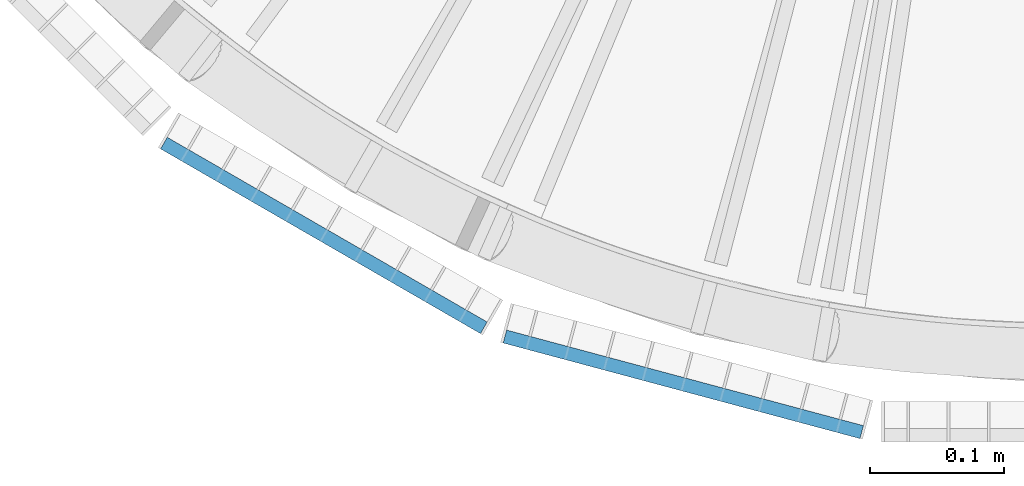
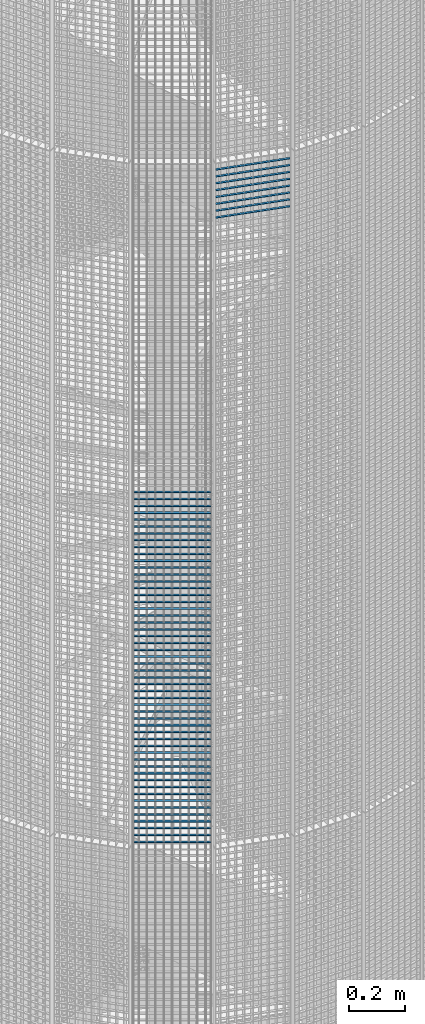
# One storey, part 346 of 1148: 60 beams, 2 elements without a shape of their own.
"""IFC2X3 building model written with IfcOpenShell, lengths in millimetres."""

from ifc_helpers import new_model, si_unit, frame, origin_with_axes, origin_2d_with_axis, place, context, subcontext, project, spatial, rectangle, extrude, material, type_object, element, aggregate, save


model = new_model("IFC2X3")

# Units and contexts
model_context = context("Model", 3, precision=1e-05, world=origin_with_axes())
body_context = subcontext(model_context, "Body", "Model", "MODEL_VIEW")
ifc_project = project(units=[si_unit("LENGTHUNIT", "METRE", prefix="MILLI"), si_unit("AREAUNIT", "SQUARE_METRE"), si_unit("VOLUMEUNIT", "CUBIC_METRE"), si_unit("MASSUNIT", "GRAM", prefix="KILO"), si_unit("TIMEUNIT", "SECOND"), si_unit("PLANEANGLEUNIT", "RADIAN"), si_unit("SOLIDANGLEUNIT", "STERADIAN"), si_unit("THERMODYNAMICTEMPERATUREUNIT", "DEGREE_CELSIUS"), si_unit("LUMINOUSINTENSITYUNIT", "LUMEN")], contexts=[model_context])

# Site, building, storey
site_placement = place(None, origin_with_axes())
site = spatial("IfcSite", under=ifc_project, at=site_placement, Name="Undefined", CompositionType="ELEMENT")
building_placement = place(site_placement, origin_with_axes())
building = spatial("IfcBuilding", under=site, at=building_placement, Name="Undefined", CompositionType="ELEMENT")
storey_placement = place(building_placement, origin_with_axes())
storey = spatial("IfcBuildingStorey", under=building, at=storey_placement, Name="Undefined", CompositionType="ELEMENT", Elevation=0.0)

# Assembly, beams
assembly_1_placement = place(storey_placement, origin_with_axes())
assembly_1 = element("IfcElementAssembly", 1, at=assembly_1_placement, inside=storey, Name="BORDURE", AssemblyPlace="NOTDEFINED", PredefinedType="NOTDEFINED")
ifc_material = material(Name="STEEL/S235JR")
beam_type = type_object("IfcBeamType", Name="PL2*10", PredefinedType="NOTDEFINED")
beam_1_placement = place(assembly_1_placement, frame((21162.7680445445, -1033.29996828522, 10560.0), z_axis=(-0.49999999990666, -0.866025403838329, 0.0), x_axis=(-0.866025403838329, 0.499999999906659, 0.0)))
beam_1 = element("IfcBeam", 2, at=beam_1_placement, type_object=beam_type, material=ifc_material, Name="ENTRETOISE", context=body_context, shape_type="SweptSolid", body=[
    extrude(rectangle(XDim=2.0, YDim=10.0, at=origin_2d_with_axis()), frame((275.999999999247, 9.09494701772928e-13, 1.53210777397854e-14), z_axis=(-1.0, 0.0, 0.0), x_axis=(0.0, -1.0, 0.0)), (0.0, 0.0, 1.0), 276.0),
])
beam_2_placement = place(assembly_1_placement, frame((21162.7680445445, -1033.29996828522, 10530.0), z_axis=(-0.49999999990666, -0.866025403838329, 0.0), x_axis=(-0.866025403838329, 0.499999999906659, 0.0)))
beam_2 = element("IfcBeam", 3, at=beam_2_placement, type_object=beam_type, material=ifc_material, Name="ENTRETOISE", context=body_context, shape_type="SweptSolid", body=[
    extrude(rectangle(XDim=2.0, YDim=10.0, at=origin_2d_with_axis()), frame((275.999999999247, 9.09494701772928e-13, 1.53210777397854e-14), z_axis=(-1.0, 0.0, 0.0), x_axis=(0.0, -1.0, 0.0)), (0.0, 0.0, 1.0), 276.0),
])
beam_3_placement = place(assembly_1_placement, frame((21162.7680445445, -1033.29996828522, 10500.0), z_axis=(-0.49999999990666, -0.866025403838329, 0.0), x_axis=(-0.866025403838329, 0.499999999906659, 0.0)))
beam_3 = element("IfcBeam", 4, at=beam_3_placement, type_object=beam_type, material=ifc_material, Name="ENTRETOISE", context=body_context, shape_type="SweptSolid", body=[
    extrude(rectangle(XDim=2.0, YDim=10.0, at=origin_2d_with_axis()), frame((275.999999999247, 9.09494701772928e-13, 1.53210777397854e-14), z_axis=(-1.0, 0.0, 0.0), x_axis=(0.0, -1.0, 0.0)), (0.0, 0.0, 1.0), 276.0),
])
beam_4_placement = place(assembly_1_placement, frame((21162.7680445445, -1033.29996828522, 10470.0), z_axis=(-0.49999999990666, -0.866025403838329, 0.0), x_axis=(-0.866025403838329, 0.499999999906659, 0.0)))
beam_4 = element("IfcBeam", 5, at=beam_4_placement, type_object=beam_type, material=ifc_material, Name="ENTRETOISE", context=body_context, shape_type="SweptSolid", body=[
    extrude(rectangle(XDim=2.0, YDim=10.0, at=origin_2d_with_axis()), frame((275.999999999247, 9.09494701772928e-13, 1.53210777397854e-14), z_axis=(-1.0, 0.0, 0.0), x_axis=(0.0, -1.0, 0.0)), (0.0, 0.0, 1.0), 276.0),
])
beam_5_placement = place(assembly_1_placement, frame((21162.7680445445, -1033.29996828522, 10440.0), z_axis=(-0.49999999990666, -0.866025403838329, 0.0), x_axis=(-0.866025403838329, 0.499999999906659, 0.0)))
beam_5 = element("IfcBeam", 6, at=beam_5_placement, type_object=beam_type, material=ifc_material, Name="ENTRETOISE", context=body_context, shape_type="SweptSolid", body=[
    extrude(rectangle(XDim=2.0, YDim=10.0, at=origin_2d_with_axis()), frame((275.999999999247, 9.09494701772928e-13, 1.53210777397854e-14), z_axis=(-1.0, 0.0, 0.0), x_axis=(0.0, -1.0, 0.0)), (0.0, 0.0, 1.0), 276.0),
])
beam_6_placement = place(assembly_1_placement, frame((21162.7680445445, -1033.29996828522, 10410.0), z_axis=(-0.49999999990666, -0.866025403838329, 0.0), x_axis=(-0.866025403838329, 0.499999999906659, 0.0)))
beam_6 = element("IfcBeam", 7, at=beam_6_placement, type_object=beam_type, material=ifc_material, Name="ENTRETOISE", context=body_context, shape_type="SweptSolid", body=[
    extrude(rectangle(XDim=2.0, YDim=10.0, at=origin_2d_with_axis()), frame((275.999999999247, 9.09494701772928e-13, 1.53210777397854e-14), z_axis=(-1.0, 0.0, 0.0), x_axis=(0.0, -1.0, 0.0)), (0.0, 0.0, 1.0), 276.0),
])
beam_7_placement = place(assembly_1_placement, frame((21162.7680445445, -1033.29996828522, 10380.0), z_axis=(-0.49999999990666, -0.866025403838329, 0.0), x_axis=(-0.866025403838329, 0.499999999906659, 0.0)))
beam_7 = element("IfcBeam", 8, at=beam_7_placement, type_object=beam_type, material=ifc_material, Name="ENTRETOISE", context=body_context, shape_type="SweptSolid", body=[
    extrude(rectangle(XDim=2.0, YDim=10.0, at=origin_2d_with_axis()), frame((275.999999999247, 9.09494701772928e-13, 1.53210777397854e-14), z_axis=(-1.0, 0.0, 0.0), x_axis=(0.0, -1.0, 0.0)), (0.0, 0.0, 1.0), 276.0),
])
beam_8_placement = place(assembly_1_placement, frame((21162.7680445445, -1033.29996828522, 10350.0), z_axis=(-0.49999999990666, -0.866025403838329, 0.0), x_axis=(-0.866025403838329, 0.499999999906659, 0.0)))
beam_8 = element("IfcBeam", 9, at=beam_8_placement, type_object=beam_type, material=ifc_material, Name="ENTRETOISE", context=body_context, shape_type="SweptSolid", body=[
    extrude(rectangle(XDim=2.0, YDim=10.0, at=origin_2d_with_axis()), frame((275.999999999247, 9.09494701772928e-13, 1.53210777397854e-14), z_axis=(-1.0, 0.0, 0.0), x_axis=(0.0, -1.0, 0.0)), (0.0, 0.0, 1.0), 276.0),
])
beam_9_placement = place(assembly_1_placement, frame((21162.7680445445, -1033.29996828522, 10320.0), z_axis=(-0.49999999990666, -0.866025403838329, 0.0), x_axis=(-0.866025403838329, 0.499999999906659, 0.0)))
beam_9 = element("IfcBeam", 10, at=beam_9_placement, type_object=beam_type, material=ifc_material, Name="ENTRETOISE", context=body_context, shape_type="SweptSolid", body=[
    extrude(rectangle(XDim=2.0, YDim=10.0, at=origin_2d_with_axis()), frame((275.999999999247, 9.09494701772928e-13, 1.53210777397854e-14), z_axis=(-1.0, 0.0, 0.0), x_axis=(0.0, -1.0, 0.0)), (0.0, 0.0, 1.0), 276.0),
])
beam_10_placement = place(assembly_1_placement, frame((21162.7680445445, -1033.29996828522, 10290.0), z_axis=(-0.49999999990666, -0.866025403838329, 0.0), x_axis=(-0.866025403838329, 0.499999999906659, 0.0)))
beam_10 = element("IfcBeam", 11, at=beam_10_placement, type_object=beam_type, material=ifc_material, Name="ENTRETOISE", context=body_context, shape_type="SweptSolid", body=[
    extrude(rectangle(XDim=2.0, YDim=10.0, at=origin_2d_with_axis()), frame((275.999999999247, 9.09494701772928e-13, 1.53210777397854e-14), z_axis=(-1.0, 0.0, 0.0), x_axis=(0.0, -1.0, 0.0)), (0.0, 0.0, 1.0), 276.0),
])
beam_11_placement = place(assembly_1_placement, frame((21162.7680445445, -1033.29996828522, 10260.0), z_axis=(-0.49999999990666, -0.866025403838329, 0.0), x_axis=(-0.866025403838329, 0.499999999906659, 0.0)))
beam_11 = element("IfcBeam", 12, at=beam_11_placement, type_object=beam_type, material=ifc_material, Name="ENTRETOISE", context=body_context, shape_type="SweptSolid", body=[
    extrude(rectangle(XDim=2.0, YDim=10.0, at=origin_2d_with_axis()), frame((275.999999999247, 9.09494701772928e-13, 1.53210777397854e-14), z_axis=(-1.0, 0.0, 0.0), x_axis=(0.0, -1.0, 0.0)), (0.0, 0.0, 1.0), 276.0),
])
beam_12_placement = place(assembly_1_placement, frame((21162.7680445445, -1033.29996828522, 10230.0), z_axis=(-0.49999999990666, -0.866025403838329, 0.0), x_axis=(-0.866025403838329, 0.499999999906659, 0.0)))
beam_12 = element("IfcBeam", 13, at=beam_12_placement, type_object=beam_type, material=ifc_material, Name="ENTRETOISE", context=body_context, shape_type="SweptSolid", body=[
    extrude(rectangle(XDim=2.0, YDim=10.0, at=origin_2d_with_axis()), frame((275.999999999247, 9.09494701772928e-13, 1.53210777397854e-14), z_axis=(-1.0, 0.0, 0.0), x_axis=(0.0, -1.0, 0.0)), (0.0, 0.0, 1.0), 276.0),
])
beam_13_placement = place(assembly_1_placement, frame((21162.7680445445, -1033.29996828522, 10200.0), z_axis=(-0.49999999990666, -0.866025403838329, 0.0), x_axis=(-0.866025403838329, 0.499999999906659, 0.0)))
beam_13 = element("IfcBeam", 14, at=beam_13_placement, type_object=beam_type, material=ifc_material, Name="ENTRETOISE", context=body_context, shape_type="SweptSolid", body=[
    extrude(rectangle(XDim=2.0, YDim=10.0, at=origin_2d_with_axis()), frame((275.999999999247, 9.09494701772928e-13, 1.53210777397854e-14), z_axis=(-1.0, 0.0, 0.0), x_axis=(0.0, -1.0, 0.0)), (0.0, 0.0, 1.0), 276.0),
])
beam_14_placement = place(assembly_1_placement, frame((21162.7680445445, -1033.29996828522, 10170.0), z_axis=(-0.49999999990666, -0.866025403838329, 0.0), x_axis=(-0.866025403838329, 0.499999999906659, 0.0)))
beam_14 = element("IfcBeam", 15, at=beam_14_placement, type_object=beam_type, material=ifc_material, Name="ENTRETOISE", context=body_context, shape_type="SweptSolid", body=[
    extrude(rectangle(XDim=2.0, YDim=10.0, at=origin_2d_with_axis()), frame((275.999999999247, 9.09494701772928e-13, 1.53210777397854e-14), z_axis=(-1.0, 0.0, 0.0), x_axis=(0.0, -1.0, 0.0)), (0.0, 0.0, 1.0), 276.0),
])
beam_15_placement = place(assembly_1_placement, frame((21162.7680445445, -1033.29996828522, 10140.0), z_axis=(-0.49999999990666, -0.866025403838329, 0.0), x_axis=(-0.866025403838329, 0.499999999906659, 0.0)))
beam_15 = element("IfcBeam", 16, at=beam_15_placement, type_object=beam_type, material=ifc_material, Name="ENTRETOISE", context=body_context, shape_type="SweptSolid", body=[
    extrude(rectangle(XDim=2.0, YDim=10.0, at=origin_2d_with_axis()), frame((275.999999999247, 9.09494701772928e-13, 1.53210777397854e-14), z_axis=(-1.0, 0.0, 0.0), x_axis=(0.0, -1.0, 0.0)), (0.0, 0.0, 1.0), 276.0),
])
beam_16_placement = place(assembly_1_placement, frame((21162.7680445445, -1033.29996828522, 9720.0), z_axis=(-0.49999999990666, -0.866025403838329, 0.0), x_axis=(-0.866025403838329, 0.499999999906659, 0.0)))
beam_16 = element("IfcBeam", 17, at=beam_16_placement, type_object=beam_type, material=ifc_material, Name="ENTRETOISE", context=body_context, shape_type="SweptSolid", body=[
    extrude(rectangle(XDim=2.0, YDim=10.0, at=origin_2d_with_axis()), frame((275.999999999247, 9.09494701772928e-13, 1.53210777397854e-14), z_axis=(-1.0, 0.0, 0.0), x_axis=(0.0, -1.0, 0.0)), (0.0, 0.0, 1.0), 276.0),
])
beam_17_placement = place(assembly_1_placement, frame((21162.7680445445, -1033.29996828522, 9690.0), z_axis=(-0.49999999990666, -0.866025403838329, 0.0), x_axis=(-0.866025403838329, 0.499999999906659, 0.0)))
beam_17 = element("IfcBeam", 18, at=beam_17_placement, type_object=beam_type, material=ifc_material, Name="ENTRETOISE", context=body_context, shape_type="SweptSolid", body=[
    extrude(rectangle(XDim=2.0, YDim=10.0, at=origin_2d_with_axis()), frame((275.999999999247, 9.09494701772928e-13, 1.53210777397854e-14), z_axis=(-1.0, 0.0, 0.0), x_axis=(0.0, -1.0, 0.0)), (0.0, 0.0, 1.0), 276.0),
])
beam_18_placement = place(assembly_1_placement, frame((21162.7680445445, -1033.29996828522, 9750.0), z_axis=(-0.49999999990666, -0.866025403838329, 0.0), x_axis=(-0.866025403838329, 0.499999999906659, 0.0)))
beam_18 = element("IfcBeam", 19, at=beam_18_placement, type_object=beam_type, material=ifc_material, Name="ENTRETOISE", context=body_context, shape_type="SweptSolid", body=[
    extrude(rectangle(XDim=2.0, YDim=10.0, at=origin_2d_with_axis()), frame((275.999999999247, 9.09494701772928e-13, 1.53210777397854e-14), z_axis=(-1.0, 0.0, 0.0), x_axis=(0.0, -1.0, 0.0)), (0.0, 0.0, 1.0), 276.0),
])
beam_19_placement = place(assembly_1_placement, frame((21162.7680445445, -1033.29996828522, 9660.0), z_axis=(-0.49999999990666, -0.866025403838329, 0.0), x_axis=(-0.866025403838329, 0.499999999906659, 0.0)))
beam_19 = element("IfcBeam", 20, at=beam_19_placement, type_object=beam_type, material=ifc_material, Name="ENTRETOISE", context=body_context, shape_type="SweptSolid", body=[
    extrude(rectangle(XDim=2.0, YDim=10.0, at=origin_2d_with_axis()), frame((275.999999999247, 9.09494701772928e-13, 1.53210777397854e-14), z_axis=(-1.0, 0.0, 0.0), x_axis=(0.0, -1.0, 0.0)), (0.0, 0.0, 1.0), 276.0),
])
beam_20_placement = place(assembly_1_placement, frame((21162.7680445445, -1033.29996828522, 9630.0), z_axis=(-0.49999999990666, -0.866025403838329, 0.0), x_axis=(-0.866025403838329, 0.499999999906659, 0.0)))
beam_20 = element("IfcBeam", 21, at=beam_20_placement, type_object=beam_type, material=ifc_material, Name="ENTRETOISE", context=body_context, shape_type="SweptSolid", body=[
    extrude(rectangle(XDim=2.0, YDim=10.0, at=origin_2d_with_axis()), frame((275.999999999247, 9.09494701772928e-13, 1.53210777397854e-14), z_axis=(-1.0, 0.0, 0.0), x_axis=(0.0, -1.0, 0.0)), (0.0, 0.0, 1.0), 276.0),
])
beam_21_placement = place(assembly_1_placement, frame((21162.7680445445, -1033.29996828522, 9780.0), z_axis=(-0.49999999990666, -0.866025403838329, 0.0), x_axis=(-0.866025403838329, 0.499999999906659, 0.0)))
beam_21 = element("IfcBeam", 22, at=beam_21_placement, type_object=beam_type, material=ifc_material, Name="ENTRETOISE", context=body_context, shape_type="SweptSolid", body=[
    extrude(rectangle(XDim=2.0, YDim=10.0, at=origin_2d_with_axis()), frame((275.999999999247, 9.09494701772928e-13, 1.53210777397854e-14), z_axis=(-1.0, 0.0, 0.0), x_axis=(0.0, -1.0, 0.0)), (0.0, 0.0, 1.0), 276.0),
])
beam_22_placement = place(assembly_1_placement, frame((21162.7680445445, -1033.29996828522, 9600.0), z_axis=(-0.49999999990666, -0.866025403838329, 0.0), x_axis=(-0.866025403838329, 0.499999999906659, 0.0)))
beam_22 = element("IfcBeam", 23, at=beam_22_placement, type_object=beam_type, material=ifc_material, Name="ENTRETOISE", context=body_context, shape_type="SweptSolid", body=[
    extrude(rectangle(XDim=2.0, YDim=10.0, at=origin_2d_with_axis()), frame((275.999999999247, 9.09494701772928e-13, 1.53210777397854e-14), z_axis=(-1.0, 0.0, 0.0), x_axis=(0.0, -1.0, 0.0)), (0.0, 0.0, 1.0), 276.0),
])
beam_23_placement = place(assembly_1_placement, frame((21162.7680445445, -1033.29996828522, 9810.0), z_axis=(-0.49999999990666, -0.866025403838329, 0.0), x_axis=(-0.866025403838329, 0.499999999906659, 0.0)))
beam_23 = element("IfcBeam", 24, at=beam_23_placement, type_object=beam_type, material=ifc_material, Name="ENTRETOISE", context=body_context, shape_type="SweptSolid", body=[
    extrude(rectangle(XDim=2.0, YDim=10.0, at=origin_2d_with_axis()), frame((275.999999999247, 9.09494701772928e-13, 1.53210777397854e-14), z_axis=(-1.0, 0.0, 0.0), x_axis=(0.0, -1.0, 0.0)), (0.0, 0.0, 1.0), 276.0),
])
beam_24_placement = place(assembly_1_placement, frame((21162.7680445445, -1033.29996828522, 9570.0), z_axis=(-0.49999999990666, -0.866025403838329, 0.0), x_axis=(-0.866025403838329, 0.499999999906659, 0.0)))
beam_24 = element("IfcBeam", 25, at=beam_24_placement, type_object=beam_type, material=ifc_material, Name="ENTRETOISE", context=body_context, shape_type="SweptSolid", body=[
    extrude(rectangle(XDim=2.0, YDim=10.0, at=origin_2d_with_axis()), frame((275.999999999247, 9.09494701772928e-13, 1.53210777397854e-14), z_axis=(-1.0, 0.0, 0.0), x_axis=(0.0, -1.0, 0.0)), (0.0, 0.0, 1.0), 276.0),
])
beam_25_placement = place(assembly_1_placement, frame((21162.7680445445, -1033.29996828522, 9540.0), z_axis=(-0.49999999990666, -0.866025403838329, 0.0), x_axis=(-0.866025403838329, 0.499999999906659, 0.0)))
beam_25 = element("IfcBeam", 26, at=beam_25_placement, type_object=beam_type, material=ifc_material, Name="ENTRETOISE", context=body_context, shape_type="SweptSolid", body=[
    extrude(rectangle(XDim=2.0, YDim=10.0, at=origin_2d_with_axis()), frame((275.999999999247, 9.09494701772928e-13, 1.53210777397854e-14), z_axis=(-1.0, 0.0, 0.0), x_axis=(0.0, -1.0, 0.0)), (0.0, 0.0, 1.0), 276.0),
])
beam_26_placement = place(assembly_1_placement, frame((21162.7680445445, -1033.29996828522, 9840.0), z_axis=(-0.49999999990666, -0.866025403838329, 0.0), x_axis=(-0.866025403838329, 0.499999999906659, 0.0)))
beam_26 = element("IfcBeam", 27, at=beam_26_placement, type_object=beam_type, material=ifc_material, Name="ENTRETOISE", context=body_context, shape_type="SweptSolid", body=[
    extrude(rectangle(XDim=2.0, YDim=10.0, at=origin_2d_with_axis()), frame((275.999999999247, 9.09494701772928e-13, 1.53210777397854e-14), z_axis=(-1.0, 0.0, 0.0), x_axis=(0.0, -1.0, 0.0)), (0.0, 0.0, 1.0), 276.0),
])
beam_27_placement = place(assembly_1_placement, frame((21162.7680445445, -1033.29996828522, 9510.0), z_axis=(-0.49999999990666, -0.866025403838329, 0.0), x_axis=(-0.866025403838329, 0.499999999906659, 0.0)))
beam_27 = element("IfcBeam", 28, at=beam_27_placement, type_object=beam_type, material=ifc_material, Name="ENTRETOISE", context=body_context, shape_type="SweptSolid", body=[
    extrude(rectangle(XDim=2.0, YDim=10.0, at=origin_2d_with_axis()), frame((275.999999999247, 9.09494701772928e-13, 1.53210777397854e-14), z_axis=(-1.0, 0.0, 0.0), x_axis=(0.0, -1.0, 0.0)), (0.0, 0.0, 1.0), 276.0),
])
beam_28_placement = place(assembly_1_placement, frame((21162.7680445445, -1033.29996828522, 9480.0), z_axis=(-0.49999999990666, -0.866025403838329, 0.0), x_axis=(-0.866025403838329, 0.499999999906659, 0.0)))
beam_28 = element("IfcBeam", 29, at=beam_28_placement, type_object=beam_type, material=ifc_material, Name="ENTRETOISE", context=body_context, shape_type="SweptSolid", body=[
    extrude(rectangle(XDim=2.0, YDim=10.0, at=origin_2d_with_axis()), frame((275.999999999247, 9.09494701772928e-13, 1.53210777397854e-14), z_axis=(-1.0, 0.0, 0.0), x_axis=(0.0, -1.0, 0.0)), (0.0, 0.0, 1.0), 276.0),
])
beam_29_placement = place(assembly_1_placement, frame((21162.7680445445, -1033.29996828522, 9870.0), z_axis=(-0.49999999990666, -0.866025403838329, 0.0), x_axis=(-0.866025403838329, 0.499999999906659, 0.0)))
beam_29 = element("IfcBeam", 30, at=beam_29_placement, type_object=beam_type, material=ifc_material, Name="ENTRETOISE", context=body_context, shape_type="SweptSolid", body=[
    extrude(rectangle(XDim=2.0, YDim=10.0, at=origin_2d_with_axis()), frame((275.999999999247, 9.09494701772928e-13, 1.53210777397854e-14), z_axis=(-1.0, 0.0, 0.0), x_axis=(0.0, -1.0, 0.0)), (0.0, 0.0, 1.0), 276.0),
])
beam_30_placement = place(assembly_1_placement, frame((21162.7680445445, -1033.29996828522, 9450.0), z_axis=(-0.49999999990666, -0.866025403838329, 0.0), x_axis=(-0.866025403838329, 0.499999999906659, 0.0)))
beam_30 = element("IfcBeam", 31, at=beam_30_placement, type_object=beam_type, material=ifc_material, Name="ENTRETOISE", context=body_context, shape_type="SweptSolid", body=[
    extrude(rectangle(XDim=2.0, YDim=10.0, at=origin_2d_with_axis()), frame((275.999999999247, 9.09494701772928e-13, 1.53210777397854e-14), z_axis=(-1.0, 0.0, 0.0), x_axis=(0.0, -1.0, 0.0)), (0.0, 0.0, 1.0), 276.0),
])
beam_31_placement = place(assembly_1_placement, frame((21162.7680445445, -1033.29996828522, 9420.0), z_axis=(-0.49999999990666, -0.866025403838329, 0.0), x_axis=(-0.866025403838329, 0.499999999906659, 0.0)))
beam_31 = element("IfcBeam", 32, at=beam_31_placement, type_object=beam_type, material=ifc_material, Name="ENTRETOISE", context=body_context, shape_type="SweptSolid", body=[
    extrude(rectangle(XDim=2.0, YDim=10.0, at=origin_2d_with_axis()), frame((275.999999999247, 9.09494701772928e-13, 1.53210777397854e-14), z_axis=(-1.0, 0.0, 0.0), x_axis=(0.0, -1.0, 0.0)), (0.0, 0.0, 1.0), 276.0),
])
beam_32_placement = place(assembly_1_placement, frame((21162.7680445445, -1033.29996828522, 9900.0), z_axis=(-0.49999999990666, -0.866025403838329, 0.0), x_axis=(-0.866025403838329, 0.499999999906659, 0.0)))
beam_32 = element("IfcBeam", 33, at=beam_32_placement, type_object=beam_type, material=ifc_material, Name="ENTRETOISE", context=body_context, shape_type="SweptSolid", body=[
    extrude(rectangle(XDim=2.0, YDim=10.0, at=origin_2d_with_axis()), frame((275.999999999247, 9.09494701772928e-13, 1.53210777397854e-14), z_axis=(-1.0, 0.0, 0.0), x_axis=(0.0, -1.0, 0.0)), (0.0, 0.0, 1.0), 276.0),
])
beam_33_placement = place(assembly_1_placement, frame((21162.7680445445, -1033.29996828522, 9390.0), z_axis=(-0.49999999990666, -0.866025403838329, 0.0), x_axis=(-0.866025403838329, 0.499999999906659, 0.0)))
beam_33 = element("IfcBeam", 34, at=beam_33_placement, type_object=beam_type, material=ifc_material, Name="ENTRETOISE", context=body_context, shape_type="SweptSolid", body=[
    extrude(rectangle(XDim=2.0, YDim=10.0, at=origin_2d_with_axis()), frame((275.999999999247, 9.09494701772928e-13, 1.53210777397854e-14), z_axis=(-1.0, 0.0, 0.0), x_axis=(0.0, -1.0, 0.0)), (0.0, 0.0, 1.0), 276.0),
])
beam_34_placement = place(assembly_1_placement, frame((21162.7680445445, -1033.29996828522, 9930.0), z_axis=(-0.49999999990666, -0.866025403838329, 0.0), x_axis=(-0.866025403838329, 0.499999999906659, 0.0)))
beam_34 = element("IfcBeam", 35, at=beam_34_placement, type_object=beam_type, material=ifc_material, Name="ENTRETOISE", context=body_context, shape_type="SweptSolid", body=[
    extrude(rectangle(XDim=2.0, YDim=10.0, at=origin_2d_with_axis()), frame((275.999999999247, 9.09494701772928e-13, 1.53210777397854e-14), z_axis=(-1.0, 0.0, 0.0), x_axis=(0.0, -1.0, 0.0)), (0.0, 0.0, 1.0), 276.0),
])
beam_35_placement = place(assembly_1_placement, frame((21162.7680445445, -1033.29996828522, 9360.0), z_axis=(-0.49999999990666, -0.866025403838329, 0.0), x_axis=(-0.866025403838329, 0.499999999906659, 0.0)))
beam_35 = element("IfcBeam", 36, at=beam_35_placement, type_object=beam_type, material=ifc_material, Name="ENTRETOISE", context=body_context, shape_type="SweptSolid", body=[
    extrude(rectangle(XDim=2.0, YDim=10.0, at=origin_2d_with_axis()), frame((275.999999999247, 9.09494701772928e-13, 1.53210777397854e-14), z_axis=(-1.0, 0.0, 0.0), x_axis=(0.0, -1.0, 0.0)), (0.0, 0.0, 1.0), 276.0),
])
beam_36_placement = place(assembly_1_placement, frame((21162.7680445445, -1033.29996828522, 9330.0), z_axis=(-0.49999999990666, -0.866025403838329, 0.0), x_axis=(-0.866025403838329, 0.499999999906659, 0.0)))
beam_36 = element("IfcBeam", 37, at=beam_36_placement, type_object=beam_type, material=ifc_material, Name="ENTRETOISE", context=body_context, shape_type="SweptSolid", body=[
    extrude(rectangle(XDim=2.0, YDim=10.0, at=origin_2d_with_axis()), frame((275.999999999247, 9.09494701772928e-13, 1.53210777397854e-14), z_axis=(-1.0, 0.0, 0.0), x_axis=(0.0, -1.0, 0.0)), (0.0, 0.0, 1.0), 276.0),
])
beam_37_placement = place(assembly_1_placement, frame((21162.7680445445, -1033.29996828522, 9960.0), z_axis=(-0.49999999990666, -0.866025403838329, 0.0), x_axis=(-0.866025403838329, 0.499999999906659, 0.0)))
beam_37 = element("IfcBeam", 38, at=beam_37_placement, type_object=beam_type, material=ifc_material, Name="ENTRETOISE", context=body_context, shape_type="SweptSolid", body=[
    extrude(rectangle(XDim=2.0, YDim=10.0, at=origin_2d_with_axis()), frame((275.999999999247, 9.09494701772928e-13, 1.53210777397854e-14), z_axis=(-1.0, 0.0, 0.0), x_axis=(0.0, -1.0, 0.0)), (0.0, 0.0, 1.0), 276.0),
])
beam_38_placement = place(assembly_1_placement, frame((21162.7680445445, -1033.29996828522, 9300.0), z_axis=(-0.49999999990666, -0.866025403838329, 0.0), x_axis=(-0.866025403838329, 0.499999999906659, 0.0)))
beam_38 = element("IfcBeam", 39, at=beam_38_placement, type_object=beam_type, material=ifc_material, Name="ENTRETOISE", context=body_context, shape_type="SweptSolid", body=[
    extrude(rectangle(XDim=2.0, YDim=10.0, at=origin_2d_with_axis()), frame((275.999999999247, 9.09494701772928e-13, 1.53210777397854e-14), z_axis=(-1.0, 0.0, 0.0), x_axis=(0.0, -1.0, 0.0)), (0.0, 0.0, 1.0), 276.0),
])
beam_39_placement = place(assembly_1_placement, frame((21162.7680445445, -1033.29996828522, 9270.0), z_axis=(-0.49999999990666, -0.866025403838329, 0.0), x_axis=(-0.866025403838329, 0.499999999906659, 0.0)))
beam_39 = element("IfcBeam", 40, at=beam_39_placement, type_object=beam_type, material=ifc_material, Name="ENTRETOISE", context=body_context, shape_type="SweptSolid", body=[
    extrude(rectangle(XDim=2.0, YDim=10.0, at=origin_2d_with_axis()), frame((275.999999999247, 9.09494701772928e-13, 1.53210777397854e-14), z_axis=(-1.0, 0.0, 0.0), x_axis=(0.0, -1.0, 0.0)), (0.0, 0.0, 1.0), 276.0),
])
beam_40_placement = place(assembly_1_placement, frame((21162.7680445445, -1033.29996828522, 9990.0), z_axis=(-0.49999999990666, -0.866025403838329, 0.0), x_axis=(-0.866025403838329, 0.499999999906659, 0.0)))
beam_40 = element("IfcBeam", 41, at=beam_40_placement, type_object=beam_type, material=ifc_material, Name="ENTRETOISE", context=body_context, shape_type="SweptSolid", body=[
    extrude(rectangle(XDim=2.0, YDim=10.0, at=origin_2d_with_axis()), frame((275.999999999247, 9.09494701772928e-13, 1.53210777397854e-14), z_axis=(-1.0, 0.0, 0.0), x_axis=(0.0, -1.0, 0.0)), (0.0, 0.0, 1.0), 276.0),
])
beam_41_placement = place(assembly_1_placement, frame((21162.7680445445, -1033.29996828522, 9240.0), z_axis=(-0.49999999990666, -0.866025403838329, 0.0), x_axis=(-0.866025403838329, 0.499999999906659, 0.0)))
beam_41 = element("IfcBeam", 42, at=beam_41_placement, type_object=beam_type, material=ifc_material, Name="ENTRETOISE", context=body_context, shape_type="SweptSolid", body=[
    extrude(rectangle(XDim=2.0, YDim=10.0, at=origin_2d_with_axis()), frame((275.999999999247, 9.09494701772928e-13, 1.53210777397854e-14), z_axis=(-1.0, 0.0, 0.0), x_axis=(0.0, -1.0, 0.0)), (0.0, 0.0, 1.0), 276.0),
])
beam_42_placement = place(assembly_1_placement, frame((21162.7680445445, -1033.29996828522, 10020.0), z_axis=(-0.49999999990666, -0.866025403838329, 0.0), x_axis=(-0.866025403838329, 0.499999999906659, 0.0)))
beam_42 = element("IfcBeam", 43, at=beam_42_placement, type_object=beam_type, material=ifc_material, Name="ENTRETOISE", context=body_context, shape_type="SweptSolid", body=[
    extrude(rectangle(XDim=2.0, YDim=10.0, at=origin_2d_with_axis()), frame((275.999999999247, 9.09494701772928e-13, 1.53210777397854e-14), z_axis=(-1.0, 0.0, 0.0), x_axis=(0.0, -1.0, 0.0)), (0.0, 0.0, 1.0), 276.0),
])
beam_43_placement = place(assembly_1_placement, frame((21162.7680445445, -1033.29996828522, 9210.0), z_axis=(-0.49999999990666, -0.866025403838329, 0.0), x_axis=(-0.866025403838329, 0.499999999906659, 0.0)))
beam_43 = element("IfcBeam", 44, at=beam_43_placement, type_object=beam_type, material=ifc_material, Name="ENTRETOISE", context=body_context, shape_type="SweptSolid", body=[
    extrude(rectangle(XDim=2.0, YDim=10.0, at=origin_2d_with_axis()), frame((275.999999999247, 9.09494701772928e-13, 1.53210777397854e-14), z_axis=(-1.0, 0.0, 0.0), x_axis=(0.0, -1.0, 0.0)), (0.0, 0.0, 1.0), 276.0),
])
beam_44_placement = place(assembly_1_placement, frame((21162.7680445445, -1033.29996828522, 9180.0), z_axis=(-0.49999999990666, -0.866025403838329, 0.0), x_axis=(-0.866025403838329, 0.499999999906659, 0.0)))
beam_44 = element("IfcBeam", 45, at=beam_44_placement, type_object=beam_type, material=ifc_material, Name="ENTRETOISE", context=body_context, shape_type="SweptSolid", body=[
    extrude(rectangle(XDim=2.0, YDim=10.0, at=origin_2d_with_axis()), frame((275.999999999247, 9.09494701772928e-13, 1.53210777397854e-14), z_axis=(-1.0, 0.0, 0.0), x_axis=(0.0, -1.0, 0.0)), (0.0, 0.0, 1.0), 276.0),
])
beam_45_placement = place(assembly_1_placement, frame((21162.7680445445, -1033.29996828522, 10050.0), z_axis=(-0.49999999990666, -0.866025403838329, 0.0), x_axis=(-0.866025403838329, 0.499999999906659, 0.0)))
beam_45 = element("IfcBeam", 46, at=beam_45_placement, type_object=beam_type, material=ifc_material, Name="ENTRETOISE", context=body_context, shape_type="SweptSolid", body=[
    extrude(rectangle(XDim=2.0, YDim=10.0, at=origin_2d_with_axis()), frame((275.999999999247, 9.09494701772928e-13, 1.53210777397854e-14), z_axis=(-1.0, 0.0, 0.0), x_axis=(0.0, -1.0, 0.0)), (0.0, 0.0, 1.0), 276.0),
])
beam_46_placement = place(assembly_1_placement, frame((21162.7680445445, -1033.29996828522, 9150.0), z_axis=(-0.49999999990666, -0.866025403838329, 0.0), x_axis=(-0.866025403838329, 0.499999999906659, 0.0)))
beam_46 = element("IfcBeam", 47, at=beam_46_placement, type_object=beam_type, material=ifc_material, Name="ENTRETOISE", context=body_context, shape_type="SweptSolid", body=[
    extrude(rectangle(XDim=2.0, YDim=10.0, at=origin_2d_with_axis()), frame((275.999999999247, 9.09494701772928e-13, 1.53210777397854e-14), z_axis=(-1.0, 0.0, 0.0), x_axis=(0.0, -1.0, 0.0)), (0.0, 0.0, 1.0), 276.0),
])
beam_47_placement = place(assembly_1_placement, frame((21162.7680445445, -1033.29996828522, 9120.0), z_axis=(-0.49999999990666, -0.866025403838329, 0.0), x_axis=(-0.866025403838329, 0.499999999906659, 0.0)))
beam_47 = element("IfcBeam", 48, at=beam_47_placement, type_object=beam_type, material=ifc_material, Name="ENTRETOISE", context=body_context, shape_type="SweptSolid", body=[
    extrude(rectangle(XDim=2.0, YDim=10.0, at=origin_2d_with_axis()), frame((275.999999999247, 9.09494701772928e-13, 1.53210777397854e-14), z_axis=(-1.0, 0.0, 0.0), x_axis=(0.0, -1.0, 0.0)), (0.0, 0.0, 1.0), 276.0),
])
beam_48_placement = place(assembly_1_placement, frame((21162.7680445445, -1033.29996828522, 10080.0), z_axis=(-0.49999999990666, -0.866025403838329, 0.0), x_axis=(-0.866025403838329, 0.499999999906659, 0.0)))
beam_48 = element("IfcBeam", 49, at=beam_48_placement, type_object=beam_type, material=ifc_material, Name="ENTRETOISE", context=body_context, shape_type="SweptSolid", body=[
    extrude(rectangle(XDim=2.0, YDim=10.0, at=origin_2d_with_axis()), frame((275.999999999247, 9.09494701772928e-13, 1.53210777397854e-14), z_axis=(-1.0, 0.0, 0.0), x_axis=(0.0, -1.0, 0.0)), (0.0, 0.0, 1.0), 276.0),
])
beam_49_placement = place(assembly_1_placement, frame((21162.7680445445, -1033.29996828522, 9090.0), z_axis=(-0.49999999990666, -0.866025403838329, 0.0), x_axis=(-0.866025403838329, 0.499999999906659, 0.0)))
beam_49 = element("IfcBeam", 50, at=beam_49_placement, type_object=beam_type, material=ifc_material, Name="ENTRETOISE", context=body_context, shape_type="SweptSolid", body=[
    extrude(rectangle(XDim=2.0, YDim=10.0, at=origin_2d_with_axis()), frame((275.999999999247, 9.09494701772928e-13, 1.53210777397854e-14), z_axis=(-1.0, 0.0, 0.0), x_axis=(0.0, -1.0, 0.0)), (0.0, 0.0, 1.0), 276.0),
])
beam_50_placement = place(assembly_1_placement, frame((21162.7680445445, -1033.29996828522, 9060.0), z_axis=(-0.49999999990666, -0.866025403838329, 0.0), x_axis=(-0.866025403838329, 0.499999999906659, 0.0)))
beam_50 = element("IfcBeam", 51, at=beam_50_placement, type_object=beam_type, material=ifc_material, Name="ENTRETOISE", context=body_context, shape_type="SweptSolid", body=[
    extrude(rectangle(XDim=2.0, YDim=10.0, at=origin_2d_with_axis()), frame((275.999999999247, 9.09494701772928e-13, 1.53210777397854e-14), z_axis=(-1.0, 0.0, 0.0), x_axis=(0.0, -1.0, 0.0)), (0.0, 0.0, 1.0), 276.0),
])
beam_51_placement = place(assembly_1_placement, frame((21162.7680445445, -1033.29996828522, 10110.0), z_axis=(-0.49999999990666, -0.866025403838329, 0.0), x_axis=(-0.866025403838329, 0.499999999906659, 0.0)))
beam_51 = element("IfcBeam", 52, at=beam_51_placement, type_object=beam_type, material=ifc_material, Name="ENTRETOISE", context=body_context, shape_type="SweptSolid", body=[
    extrude(rectangle(XDim=2.0, YDim=10.0, at=origin_2d_with_axis()), frame((275.999999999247, 9.09494701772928e-13, 1.53210777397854e-14), z_axis=(-1.0, 0.0, 0.0), x_axis=(0.0, -1.0, 0.0)), (0.0, 0.0, 1.0), 276.0),
])
beam_52_placement = place(assembly_1_placement, frame((21162.7680445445, -1033.29996828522, 9030.0), z_axis=(-0.49999999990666, -0.866025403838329, 0.0), x_axis=(-0.866025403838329, 0.499999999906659, 0.0)))
beam_52 = element("IfcBeam", 53, at=beam_52_placement, type_object=beam_type, material=ifc_material, Name="ENTRETOISE", context=body_context, shape_type="SweptSolid", body=[
    extrude(rectangle(XDim=2.0, YDim=10.0, at=origin_2d_with_axis()), frame((275.999999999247, 9.09494701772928e-13, 1.53210777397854e-14), z_axis=(-1.0, 0.0, 0.0), x_axis=(0.0, -1.0, 0.0)), (0.0, 0.0, 1.0), 276.0),
])
aggregate(assembly_1, [beam_1, beam_2, beam_3, beam_4, beam_5, beam_6, beam_7, beam_8, beam_9, beam_10, beam_11, beam_12, beam_13, beam_14, beam_15, beam_16, beam_17, beam_18, beam_19, beam_20, beam_21, beam_22, beam_23, beam_24, beam_25, beam_26, beam_27, beam_28, beam_29, beam_30, beam_31, beam_32, beam_33, beam_34, beam_35, beam_36, beam_37, beam_38, beam_39, beam_40, beam_41, beam_42, beam_43, beam_44, beam_45, beam_46, beam_47, beam_48, beam_49, beam_50, beam_51, beam_52])

assembly_2_placement = place(storey_placement, origin_with_axes())
assembly_2 = element("IfcElementAssembly", 54, at=assembly_2_placement, inside=storey, Name="BORDURE", AssemblyPlace="NOTDEFINED", PredefinedType="NOTDEFINED")
beam_53_placement = place(assembly_2_placement, frame((21445.1040732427, -1111.25508286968, 11970.0), z_axis=(-0.258819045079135, -0.965925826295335, 0.0), x_axis=(-0.965925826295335, 0.258819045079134, 0.0)))
beam_53 = element("IfcBeam", 55, at=beam_53_placement, type_object=beam_type, material=ifc_material, Name="ENTRETOISE", context=body_context, shape_type="SweptSolid", body=[
    extrude(rectangle(XDim=2.0, YDim=10.0, at=origin_2d_with_axis()), frame((275.999999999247, 9.09494701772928e-13, 1.53210777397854e-14), z_axis=(-1.0, 0.0, 0.0), x_axis=(0.0, -1.0, 0.0)), (0.0, 0.0, 1.0), 276.0),
])
beam_54_placement = place(assembly_2_placement, frame((21445.1040732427, -1111.25508286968, 11940.0), z_axis=(-0.258819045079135, -0.965925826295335, 0.0), x_axis=(-0.965925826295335, 0.258819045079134, 0.0)))
beam_54 = element("IfcBeam", 56, at=beam_54_placement, type_object=beam_type, material=ifc_material, Name="ENTRETOISE", context=body_context, shape_type="SweptSolid", body=[
    extrude(rectangle(XDim=2.0, YDim=10.0, at=origin_2d_with_axis()), frame((275.999999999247, 9.09494701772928e-13, 1.53210777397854e-14), z_axis=(-1.0, 0.0, 0.0), x_axis=(0.0, -1.0, 0.0)), (0.0, 0.0, 1.0), 276.0),
])
beam_55_placement = place(assembly_2_placement, frame((21445.1040732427, -1111.25508286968, 11910.0), z_axis=(-0.258819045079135, -0.965925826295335, 0.0), x_axis=(-0.965925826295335, 0.258819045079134, 0.0)))
beam_55 = element("IfcBeam", 57, at=beam_55_placement, type_object=beam_type, material=ifc_material, Name="ENTRETOISE", context=body_context, shape_type="SweptSolid", body=[
    extrude(rectangle(XDim=2.0, YDim=10.0, at=origin_2d_with_axis()), frame((275.999999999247, 9.09494701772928e-13, 1.53210777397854e-14), z_axis=(-1.0, 0.0, 0.0), x_axis=(0.0, -1.0, 0.0)), (0.0, 0.0, 1.0), 276.0),
])
beam_56_placement = place(assembly_2_placement, frame((21445.1040732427, -1111.25508286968, 11880.0), z_axis=(-0.258819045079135, -0.965925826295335, 0.0), x_axis=(-0.965925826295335, 0.258819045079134, 0.0)))
beam_56 = element("IfcBeam", 58, at=beam_56_placement, type_object=beam_type, material=ifc_material, Name="ENTRETOISE", context=body_context, shape_type="SweptSolid", body=[
    extrude(rectangle(XDim=2.0, YDim=10.0, at=origin_2d_with_axis()), frame((275.999999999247, 9.09494701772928e-13, 1.53210777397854e-14), z_axis=(-1.0, 0.0, 0.0), x_axis=(0.0, -1.0, 0.0)), (0.0, 0.0, 1.0), 276.0),
])
beam_57_placement = place(assembly_2_placement, frame((21445.1040732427, -1111.25508286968, 11850.0), z_axis=(-0.258819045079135, -0.965925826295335, 0.0), x_axis=(-0.965925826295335, 0.258819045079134, 0.0)))
beam_57 = element("IfcBeam", 59, at=beam_57_placement, type_object=beam_type, material=ifc_material, Name="ENTRETOISE", context=body_context, shape_type="SweptSolid", body=[
    extrude(rectangle(XDim=2.0, YDim=10.0, at=origin_2d_with_axis()), frame((275.999999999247, 9.09494701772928e-13, 1.53210777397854e-14), z_axis=(-1.0, 0.0, 0.0), x_axis=(0.0, -1.0, 0.0)), (0.0, 0.0, 1.0), 276.0),
])
beam_58_placement = place(assembly_2_placement, frame((21445.1040732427, -1111.25508286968, 11820.0), z_axis=(-0.258819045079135, -0.965925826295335, 0.0), x_axis=(-0.965925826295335, 0.258819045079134, 0.0)))
beam_58 = element("IfcBeam", 60, at=beam_58_placement, type_object=beam_type, material=ifc_material, Name="ENTRETOISE", context=body_context, shape_type="SweptSolid", body=[
    extrude(rectangle(XDim=2.0, YDim=10.0, at=origin_2d_with_axis()), frame((275.999999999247, 9.09494701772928e-13, 1.53210777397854e-14), z_axis=(-1.0, 0.0, 0.0), x_axis=(0.0, -1.0, 0.0)), (0.0, 0.0, 1.0), 276.0),
])
beam_59_placement = place(assembly_2_placement, frame((21445.1040732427, -1111.25508286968, 11790.0), z_axis=(-0.258819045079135, -0.965925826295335, 0.0), x_axis=(-0.965925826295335, 0.258819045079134, 0.0)))
beam_59 = element("IfcBeam", 61, at=beam_59_placement, type_object=beam_type, material=ifc_material, Name="ENTRETOISE", context=body_context, shape_type="SweptSolid", body=[
    extrude(rectangle(XDim=2.0, YDim=10.0, at=origin_2d_with_axis()), frame((275.999999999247, 9.09494701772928e-13, 1.53210777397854e-14), z_axis=(-1.0, 0.0, 0.0), x_axis=(0.0, -1.0, 0.0)), (0.0, 0.0, 1.0), 276.0),
])
beam_60_placement = place(assembly_2_placement, frame((21445.1040732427, -1111.25508286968, 11760.0), z_axis=(-0.258819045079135, -0.965925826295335, 0.0), x_axis=(-0.965925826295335, 0.258819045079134, 0.0)))
beam_60 = element("IfcBeam", 62, at=beam_60_placement, type_object=beam_type, material=ifc_material, Name="ENTRETOISE", context=body_context, shape_type="SweptSolid", body=[
    extrude(rectangle(XDim=2.0, YDim=10.0, at=origin_2d_with_axis()), frame((275.999999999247, 9.09494701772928e-13, 1.53210777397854e-14), z_axis=(-1.0, 0.0, 0.0), x_axis=(0.0, -1.0, 0.0)), (0.0, 0.0, 1.0), 276.0),
])
aggregate(assembly_2, [beam_53, beam_54, beam_55, beam_56, beam_57, beam_58, beam_59, beam_60])

save(model, "model.ifc")
